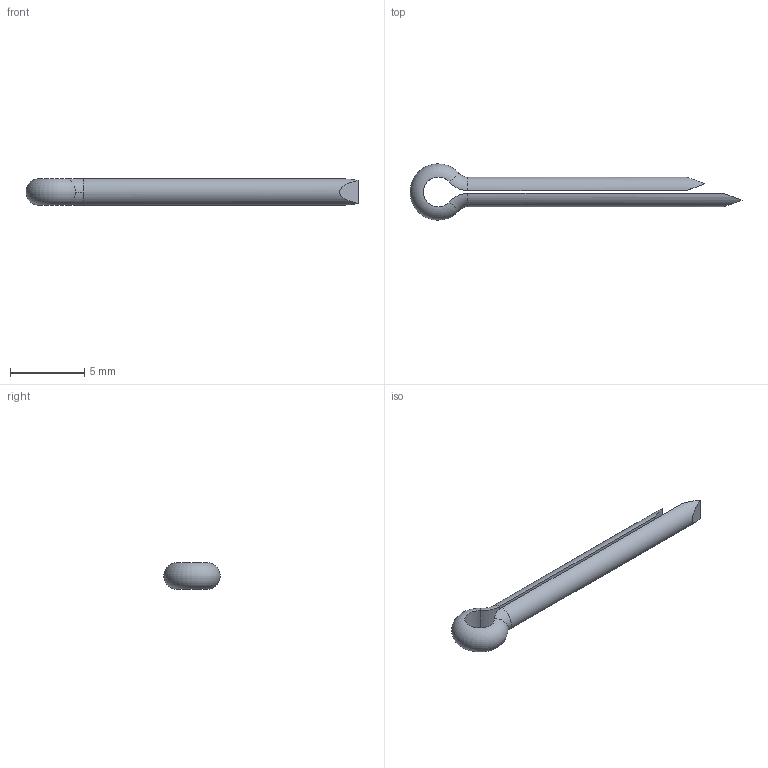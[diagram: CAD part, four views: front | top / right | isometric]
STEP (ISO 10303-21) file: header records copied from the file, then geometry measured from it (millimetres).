
FILE_DESCRIPTION (( 'STEP AP203' ), '1' );
FILE_NAME ('65674.0020.step', '2014-01-07T16:35:46', ( 'User' ), ( '' ), 'SwSTEP 2.0', 'SolidWorks 2009', '' );
FILE_SCHEMA (( 'CONFIG_CONTROL_DESIGN' ));
Length unit declared in the file: millimetre
Products named in the file (1): 65674.0020
Bounding box: 22.4 x 3.8 x 1.8 mm (x, y, z)
Volume: 53.7 mm3; surface area: 199 mm2
Topology: 1 solids, 1 shells, 16 faces, 34 edges, 20 vertices
Faces by surface type: plane 6, torus 5, cylinder 5
Entity records: 507 total; most frequent: CARTESIAN_POINT 89, DIRECTION 78, ORIENTED_EDGE 68, EDGE_CURVE 34, AXIS2_PLACEMENT_3D 33, VERTEX_POINT 20, EDGE_LOOP 16, ADVANCED_FACE 16
